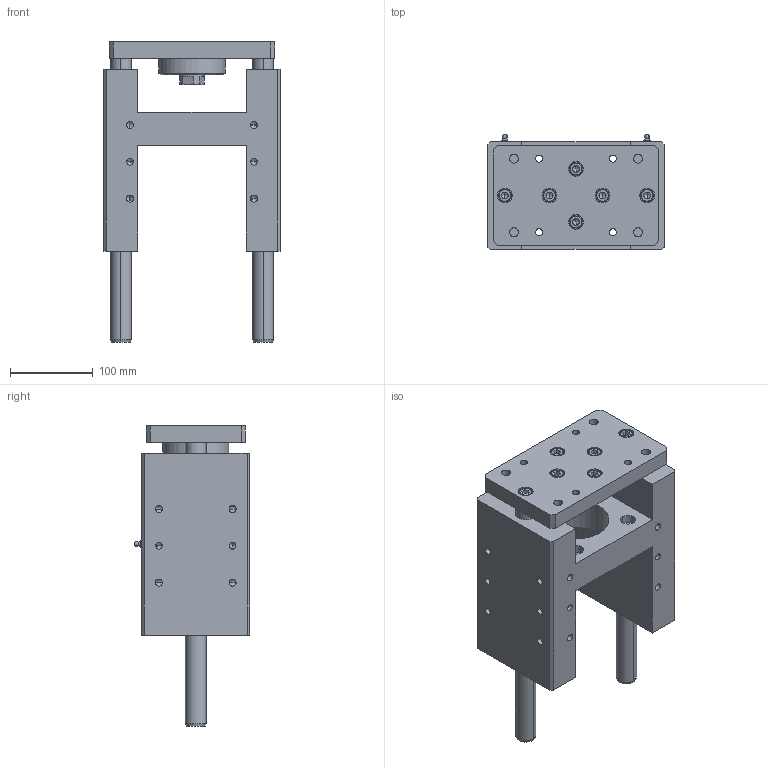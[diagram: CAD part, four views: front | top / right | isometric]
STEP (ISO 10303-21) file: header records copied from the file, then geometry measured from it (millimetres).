
FILE_DESCRIPTION (( 'STEP AP214' ), '1' );
FILE_NAME ('WHRC-100-0100 (3D).STEP', '2018-11-28T13:57:55', ( 'Hidtek' ), ( '' ), 'SwSTEP 2.0', 'SolidWorks 2016', '' );
FILE_SCHEMA (( 'AUTOMOTIVE_DESIGN' ));
Length unit declared in the file: millimetre
Products named in the file (4): Group1^WHRC-100-0100 (3D); Group2^WHRC-100-0100 (3D); WHRC-100-0100 (3D); Group3^WHRC-100-0100 (3D)
Assembly tree (3 placements, depth 2):
  WHRC-100-0100 (3D)
    Group1^WHRC-100-0100 (3D)
    Group2^WHRC-100-0100 (3D)
    Group3^WHRC-100-0100 (3D)
Bounding box: 213 x 139.05 x 363 mm (x, y, z)
Volume: 3438249.5 mm3; surface area: 410683.2 mm2
Topology: 14 solids, 14 shells, 634 faces, 1624 edges, 1032 vertices
Faces by surface type: plane 328, cylinder 154, bspline 88, cone 64
Entity records: 25410 total; most frequent: CARTESIAN_POINT 8536, ORIENTED_EDGE 3144, DIRECTION 2874, EDGE_CURVE 1572, VERTEX_POINT 1032, LINE 966, VECTOR 966, AXIS2_PLACEMENT_3D 954
